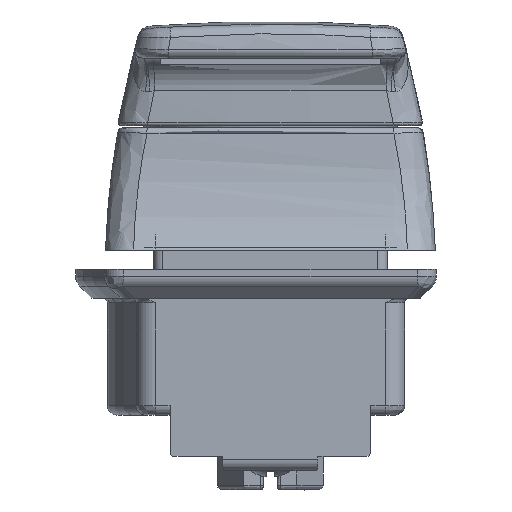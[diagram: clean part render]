
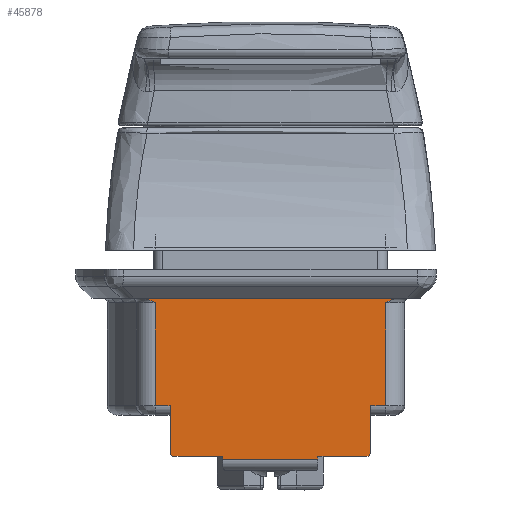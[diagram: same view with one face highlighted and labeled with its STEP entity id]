
A CAD part, front view. The second image highlights one B-rep face of the part: STEP entity #45878.
In plain terms, the highlighted planar face has unit normal (0, -1, 0) as drawn and (0, 1, 0) by its records, which use the part's own axes.
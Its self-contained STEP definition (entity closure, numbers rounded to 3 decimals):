
#41871=DIRECTION('',(-1.,0.,0.));
#41872=VECTOR('',#41871,27.);
#41873=CARTESIAN_POINT('',(13.5,28.,
-3.));
#41874=LINE('',#41873,#41872);
#41878=DIRECTION('',(-1.,0.,0.));
#41879=VECTOR('',#41878,5.1);
#41880=CARTESIAN_POINT('',(-4.95,28.,-19.5));
#41881=LINE('',#41880,#41879);
#41885=DIRECTION('',(0.,0.,1.));
#41886=VECTOR('',#41885,0.3);
#41887=CARTESIAN_POINT('',(-4.95,28.,-19.8));
#41888=LINE('',#41887,#41886);
#41892=DIRECTION('',(0.,0.,-1.));
#41893=VECTOR('',#41892,0.3);
#41894=CARTESIAN_POINT('',(4.95,28.,-19.5));
#41895=LINE('',#41894,#41893);
#41899=DIRECTION('',(-1.,0.,0.));
#41900=VECTOR('',#41899,5.1);
#41901=CARTESIAN_POINT('',(10.05,28.,-19.5));
#41902=LINE('',#41901,#41900);
#41913=DIRECTION('',(1.,0.,0.));
#41914=VECTOR('',#41913,1.55);
#41915=CARTESIAN_POINT('',(10.45,28.,-14.2));
#41916=LINE('',#41915,#41914);
#42189=CARTESIAN_POINT('',(13.5,28.,
-3.));
#42190=CARTESIAN_POINT('',(13.359,28.,
-3.));
#42191=CARTESIAN_POINT('',(13.086,28.,
-3.041));
#42192=CARTESIAN_POINT('',(12.703,28.,
-3.168));
#42193=CARTESIAN_POINT('',(12.342,28.,
-3.329));
#42194=CARTESIAN_POINT('',(12.113,28.,-3.443));
#42195=CARTESIAN_POINT('',(12.,28.,-3.5));
#42215=DIRECTION('',(0.,0.,-1.));
#42216=VECTOR('',#42215,10.7);
#42217=CARTESIAN_POINT('',(12.,28.,-3.5));
#42218=LINE('',#42217,#42216);
#42293=DIRECTION('',(0.,0.,-1.));
#42294=VECTOR('',#42293,4.9);
#42295=CARTESIAN_POINT('',(10.45,28.,-14.2));
#42296=LINE('',#42295,#42294);
#42322=CARTESIAN_POINT('',(10.05,28.,-19.1));
#42323=DIRECTION('',(0.,1.,0.));
#42324=DIRECTION('',(1.,0.,0.));
#42325=AXIS2_PLACEMENT_3D('',#42322,#42323,#42324);
#42337=DIRECTION('',(-1.,0.,0.));
#42338=VECTOR('',#42337,9.9);
#42339=CARTESIAN_POINT('',(4.95,28.,-19.8));
#42340=LINE('',#42339,#42338);
#42432=CARTESIAN_POINT('',(-10.05,28.,-19.1));
#42433=DIRECTION('',(0.,1.,0.));
#42434=DIRECTION('',(0.,0.,-1.));
#42435=AXIS2_PLACEMENT_3D('',#42432,#42433,#42434);
#42447=DIRECTION('',(0.,0.,1.));
#42448=VECTOR('',#42447,4.9);
#42449=CARTESIAN_POINT('',(-10.45,28.,-19.1));
#42450=LINE('',#42449,#42448);
#42461=DIRECTION('',(-1.,0.,0.));
#42462=VECTOR('',#42461,1.55);
#42463=CARTESIAN_POINT('',(-10.45,28.,-14.2));
#42464=LINE('',#42463,#42462);
#42507=DIRECTION('',(0.,0.,1.));
#42508=VECTOR('',#42507,10.7);
#42509=CARTESIAN_POINT('',(-12.,28.,-14.2));
#42510=LINE('',#42509,#42508);
#42529=CARTESIAN_POINT('',(-12.,28.,-3.5));
#42530=CARTESIAN_POINT('',(-12.113,28.,-3.443));
#42531=CARTESIAN_POINT('',(-12.342,28.,
-3.329));
#42532=CARTESIAN_POINT('',(-12.703,28.,
-3.168));
#42533=CARTESIAN_POINT('',(-13.086,28.,
-3.041));
#42534=CARTESIAN_POINT('',(-13.359,28.,
-3.));
#42535=CARTESIAN_POINT('',(-13.5,28.,
-3.));
#44588=CARTESIAN_POINT('',(4.95,28.,-19.5));
#44590=VERTEX_POINT('',#44588);
#44592=CARTESIAN_POINT('',(-4.95,28.,-19.5));
#44594=VERTEX_POINT('',#44592);
#44825=CARTESIAN_POINT('',(-10.45,28.,-19.1));
#44827=VERTEX_POINT('',#44825);
#44831=CARTESIAN_POINT('',(-10.05,28.,-19.5));
#44832=VERTEX_POINT('',#44831);
#44833=CARTESIAN_POINT('',(10.05,28.,-19.5));
#44835=VERTEX_POINT('',#44833);
#44839=CARTESIAN_POINT('',(10.45,28.,-19.1));
#44840=VERTEX_POINT('',#44839);
#44851=CARTESIAN_POINT('',(4.95,28.,-19.8));
#44852=CARTESIAN_POINT('',(-4.95,28.,-19.8));
#44853=VERTEX_POINT('',#44851);
#44854=VERTEX_POINT('',#44852);
#45021=CARTESIAN_POINT('',(13.5,28.,-3.));
#45022=VERTEX_POINT('',#45021);
#45023=CARTESIAN_POINT('',(12.,28.,-3.5));
#45024=VERTEX_POINT('',#45023);
#45025=CARTESIAN_POINT('',(-12.,28.,-3.5));
#45027=VERTEX_POINT('',#45025);
#45029=CARTESIAN_POINT('',(-13.5,28.,-3.));
#45031=VERTEX_POINT('',#45029);
#45075=CARTESIAN_POINT('',(12.,28.,-14.2));
#45076=VERTEX_POINT('',#45075);
#45079=CARTESIAN_POINT('',(10.45,28.,-14.2));
#45080=VERTEX_POINT('',#45079);
#45081=CARTESIAN_POINT('',(-10.45,28.,-14.2));
#45082=CARTESIAN_POINT('',(-12.,28.,-14.2));
#45083=VERTEX_POINT('',#45081);
#45084=VERTEX_POINT('',#45082);
#45840=CARTESIAN_POINT('',(0.,28.,0.));
#45841=DIRECTION('',(0.,1.,0.));
#45842=DIRECTION('',(1.,0.,0.));
#45843=AXIS2_PLACEMENT_3D('',#45840,#45841,#45842);
#45844=PLANE('',#45843);
#45846=ORIENTED_EDGE('',*,*,#45845,.T.);
#45848=ORIENTED_EDGE('',*,*,#45847,.F.);
#45850=ORIENTED_EDGE('',*,*,#45849,.F.);
#45851=ORIENTED_EDGE('',*,*,#45828,.T.);
#45853=ORIENTED_EDGE('',*,*,#45852,.F.);
#45855=ORIENTED_EDGE('',*,*,#45854,.F.);
#45857=ORIENTED_EDGE('',*,*,#45856,.F.);
#45859=ORIENTED_EDGE('',*,*,#45858,.F.);
#45861=ORIENTED_EDGE('',*,*,#45860,.F.);
#45863=ORIENTED_EDGE('',*,*,#45862,.F.);
#45865=ORIENTED_EDGE('',*,*,#45864,.F.);
#45867=ORIENTED_EDGE('',*,*,#45866,.F.);
#45869=ORIENTED_EDGE('',*,*,#45868,.F.);
#45871=ORIENTED_EDGE('',*,*,#45870,.F.);
#45873=ORIENTED_EDGE('',*,*,#45872,.F.);
#45875=ORIENTED_EDGE('',*,*,#45874,.F.);
#45876=EDGE_LOOP('',(#45846,#45848,#45850,#45851,#45853,#45855,#45857,#45859,
#45861,#45863,#45865,#45867,#45869,#45871,#45873,#45875));
#45877=FACE_OUTER_BOUND('',#45876,.F.);
#45878=ADVANCED_FACE('',(#45877),#45844,.T.);
#42196=B_SPLINE_CURVE_WITH_KNOTS('',3,(#42189,#42190,#42191,#42192,#42193,
#42194,#42195),.UNSPECIFIED.,.F.,.F.,(4,1,1,1,4),(0.,0.25,0.5,0.75,
1.),.UNSPECIFIED.);
#42326=CIRCLE('',#42325,0.4);
#42436=CIRCLE('',#42435,0.4);
#42536=B_SPLINE_CURVE_WITH_KNOTS('',3,(#42529,#42530,#42531,#42532,#42533,
#42534,#42535),.UNSPECIFIED.,.F.,.F.,(4,1,1,1,4),(0.,0.25,0.5,0.75,
1.),.UNSPECIFIED.);
#45828=EDGE_CURVE('',#45022,#45031,#41874,.T.);
#45845=EDGE_CURVE('',#45080,#45076,#41916,.T.);
#45847=EDGE_CURVE('',#45024,#45076,#42218,.T.);
#45849=EDGE_CURVE('',#45022,#45024,#42196,.T.);
#45852=EDGE_CURVE('',#45027,#45031,#42536,.T.);
#45854=EDGE_CURVE('',#45084,#45027,#42510,.T.);
#45856=EDGE_CURVE('',#45083,#45084,#42464,.T.);
#45858=EDGE_CURVE('',#44827,#45083,#42450,.T.);
#45860=EDGE_CURVE('',#44832,#44827,#42436,.T.);
#45862=EDGE_CURVE('',#44594,#44832,#41881,.T.);
#45864=EDGE_CURVE('',#44854,#44594,#41888,.T.);
#45866=EDGE_CURVE('',#44853,#44854,#42340,.T.);
#45868=EDGE_CURVE('',#44590,#44853,#41895,.T.);
#45870=EDGE_CURVE('',#44835,#44590,#41902,.T.);
#45872=EDGE_CURVE('',#44840,#44835,#42326,.T.);
#45874=EDGE_CURVE('',#45080,#44840,#42296,.T.);
